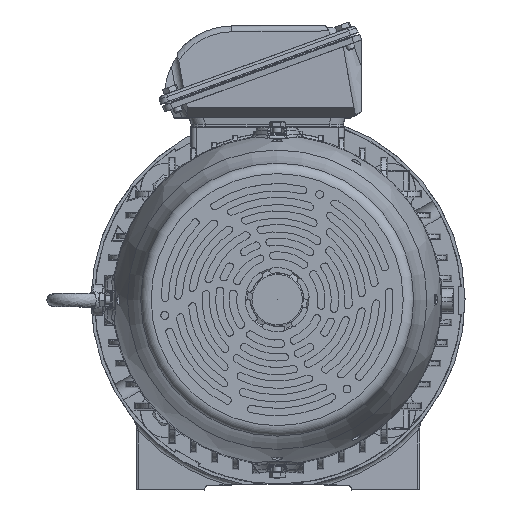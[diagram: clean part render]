
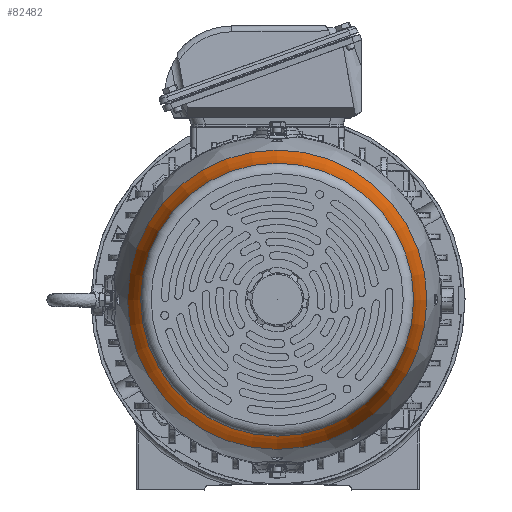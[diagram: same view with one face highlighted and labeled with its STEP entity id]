
A CAD part, top view. The second image highlights one B-rep face of the part: STEP entity #82482.
In plain terms, the highlighted toroidal (fillet/blend) face has major radius 308.616 mm and minor radius 180 mm.
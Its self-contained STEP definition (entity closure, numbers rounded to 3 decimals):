
#1968=TOROIDAL_SURFACE('',#88639,308.617,180.);
#15614=FACE_OUTER_BOUND('',#20496,.T.);
#20496=EDGE_LOOP('',(#57032,#57033,#57034,#57035,#57036,#57037));
#25915=CIRCLE('',#88620,142.487);
#25916=CIRCLE('',#88621,142.487);
#25934=CIRCLE('',#88640,180.);
#25935=CIRCLE('',#88641,129.927);
#25936=CIRCLE('',#88642,129.927);
#34087=VERTEX_POINT('',#129480);
#34088=VERTEX_POINT('',#129484);
#34122=VERTEX_POINT('',#129774);
#34123=VERTEX_POINT('',#129776);
#42823=EDGE_CURVE('',#34087,#34088,#25915,.T.);
#42824=EDGE_CURVE('',#34088,#34087,#25916,.T.);
#42859=EDGE_CURVE('',#34087,#34122,#25934,.T.);
#42860=EDGE_CURVE('',#34122,#34123,#25935,.T.);
#42861=EDGE_CURVE('',#34123,#34122,#25936,.T.);
#57032=ORIENTED_EDGE('',*,*,#42824,.F.);
#57033=ORIENTED_EDGE('',*,*,#42823,.F.);
#57034=ORIENTED_EDGE('',*,*,#42859,.T.);
#57035=ORIENTED_EDGE('',*,*,#42860,.T.);
#57036=ORIENTED_EDGE('',*,*,#42861,.T.);
#57037=ORIENTED_EDGE('',*,*,#42859,.F.);
#82482=ADVANCED_FACE('',(#15614),#1968,.F.);
#88620=AXIS2_PLACEMENT_3D('',#129485,#100023,#100024);
#88621=AXIS2_PLACEMENT_3D('',#129486,#100025,#100026);
#88639=AXIS2_PLACEMENT_3D('',#129773,#100061,#100062);
#88640=AXIS2_PLACEMENT_3D('',#129775,#100063,#100064);
#88641=AXIS2_PLACEMENT_3D('',#129777,#100065,#100066);
#88642=AXIS2_PLACEMENT_3D('',#129778,#100067,#100068);
#100023=DIRECTION('center_axis',(0.,0.,
-1.));
#100024=DIRECTION('ref_axis',(-1.,0.,0.));
#100025=DIRECTION('center_axis',(0.,0.,
-1.));
#100026=DIRECTION('ref_axis',(-1.,0.,0.));
#100061=DIRECTION('center_axis',(0.,0.,
-1.));
#100062=DIRECTION('ref_axis',(-1.,0.,0.));
#100063=DIRECTION('center_axis',(0.,1.,0.));
#100064=DIRECTION('ref_axis',(1.,0.,0.));
#100065=DIRECTION('center_axis',(0.,0.,
-1.));
#100066=DIRECTION('ref_axis',(-1.,0.,0.));
#100067=DIRECTION('center_axis',(0.,0.,
-1.));
#100068=DIRECTION('ref_axis',(-1.,0.,0.));
#129480=CARTESIAN_POINT('',(141.623,0.,569.399));
#129484=CARTESIAN_POINT('',(-143.35,0.,569.399));
#129485=CARTESIAN_POINT('Origin',(-0.863,0.,
569.399));
#129486=CARTESIAN_POINT('Origin',(-0.863,0.,
569.399));
#129773=CARTESIAN_POINT('Origin',(-0.863,0.,
638.687));
#129774=CARTESIAN_POINT('',(129.064,0.,617.005));
#129775=CARTESIAN_POINT('Origin',(307.753,0.,
638.687));
#129776=CARTESIAN_POINT('',(-130.791,0.,617.005));
#129777=CARTESIAN_POINT('Origin',(-0.863,0.,
617.005));
#129778=CARTESIAN_POINT('Origin',(-0.863,0.,
617.005));
